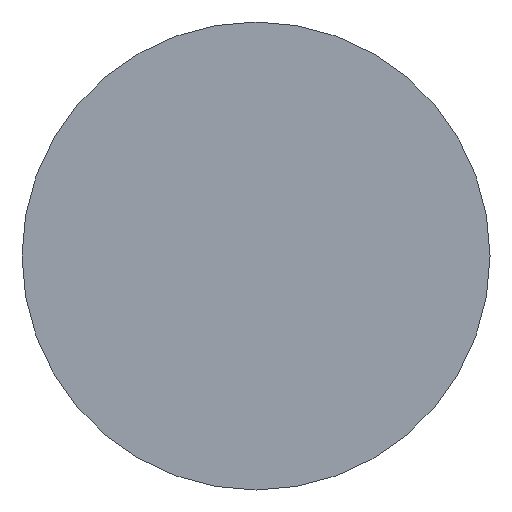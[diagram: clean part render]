
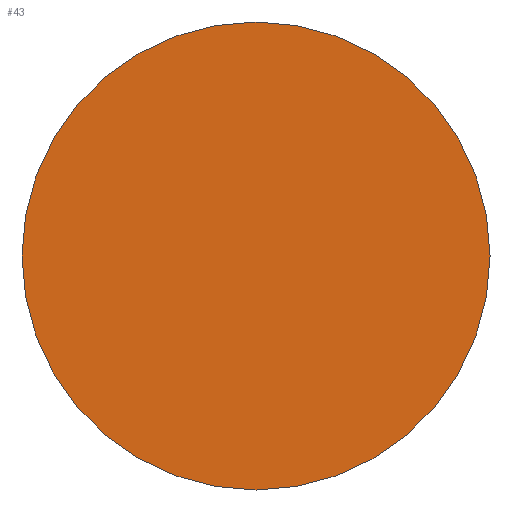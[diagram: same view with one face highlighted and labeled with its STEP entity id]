
A CAD part, front view. The second image highlights one B-rep face of the part: STEP entity #43.
In plain terms, the highlighted planar face has unit normal (0, -1, 0).
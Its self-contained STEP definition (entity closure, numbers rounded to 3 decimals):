
#5 = ORIENTED_EDGE ( 'NONE', *, *, #307, .F. ) ;
#43 = ADVANCED_FACE ( 'NONE', ( #573 ), #359, .F. ) ;
#79 = CARTESIAN_POINT ( 'NONE',  ( 0., -3., -24.25 ) ) ;
#106 = CARTESIAN_POINT ( 'NONE',  ( 28.4, -3., 0. ) ) ;
#162 = AXIS2_PLACEMENT_3D ( 'NONE', #502, #326, #561 ) ;
#198 = ORIENTED_EDGE ( 'NONE', *, *, #518, .F. ) ;
#273 = AXIS2_PLACEMENT_3D ( 'NONE', #106, #422, #776 ) ;
#293 = EDGE_LOOP ( 'NONE', ( #5, #198 ) ) ;
#307 = EDGE_CURVE ( 'NONE', #494, #652, #721, .T. ) ;
#326 = DIRECTION ( 'NONE',  ( 0., 1., 0. ) ) ;
#332 = DIRECTION ( 'NONE',  ( 0., 0., 1. ) ) ;
#340 = CARTESIAN_POINT ( 'NONE',  ( 0., -3., 24.25 ) ) ;
#359 = PLANE ( 'NONE',  #273 ) ;
#396 = DIRECTION ( 'NONE',  ( 0., 1., 0. ) ) ;
#422 = DIRECTION ( 'NONE',  ( 0., 1., 0. ) ) ;
#463 = AXIS2_PLACEMENT_3D ( 'NONE', #621, #396, #332 ) ;
#494 = VERTEX_POINT ( 'NONE', #340 ) ;
#502 = CARTESIAN_POINT ( 'NONE',  ( 0., -3., 0. ) ) ;
#518 = EDGE_CURVE ( 'NONE', #652, #494, #771, .T. ) ;
#561 = DIRECTION ( 'NONE',  ( 0., 0., 1. ) ) ;
#573 = FACE_OUTER_BOUND ( 'NONE', #293, .T. ) ;
#621 = CARTESIAN_POINT ( 'NONE',  ( 0., -3., 0. ) ) ;
#652 = VERTEX_POINT ( 'NONE', #79 ) ;
#721 = CIRCLE ( 'NONE', #162, 24.25 ) ;
#771 = CIRCLE ( 'NONE', #463, 24.25 ) ;
#776 = DIRECTION ( 'NONE',  ( 0., 0., 1. ) ) ;
